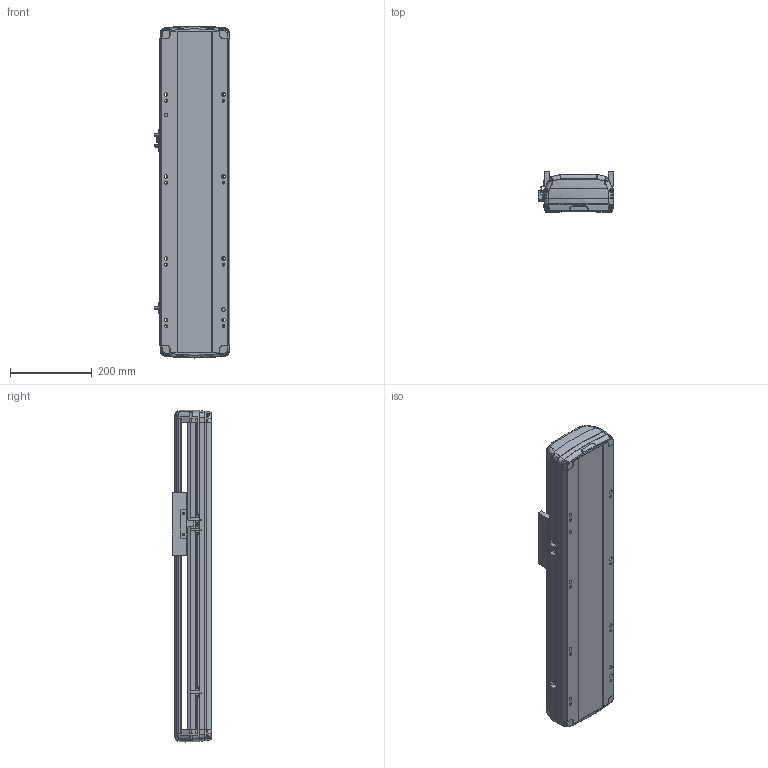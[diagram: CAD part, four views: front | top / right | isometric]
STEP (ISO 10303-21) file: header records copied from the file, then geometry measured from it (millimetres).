
FILE_DESCRIPTION (( 'STEP AP214' ), '1' );
FILE_NAME ('RTH17-XX-400-B-M40-C4.STEP', '2025-10-24T08:32:19', ( '' ), ( '' ), 'SwSTEP 2.0', 'SolidWorks 2018', '' );
FILE_SCHEMA (( 'AUTOMOTIVE_DESIGN' ));
Length unit declared in the file: millimetre
Products named in the file (7): N_RTH17-GY-001P^RTH17-XX-XX-B-M40-C4（方程式）; N_RTH-L-012 感应片(外置)^RTH17-XX-XX-B-M40-C4（方程式）; N_RTH17-E-004丝杆螺母连接座^RTH17-XX-XX-B-M40-C4（方程式）; N_RTH17-M-007上盖^RTH17-XX-XX-B-M40-C4（方程式）; N_RTH17-M-011底座^RTH17-XX-XX-B-M40-C4（方程式）; N_OMRON EE-SX672 換覜ん^RTH17-XX-XX-B-M40-C4ㄗ源最宒ㄘ; RTH17-XX-400-B-M40-C4
Assembly tree (9 placements, depth 2):
  RTH17-XX-400-B-M40-C4
    N_RTH17-M-011底座^RTH17-XX-XX-B-M40-C4（方程式）
    N_RTH17-M-007上盖^RTH17-XX-XX-B-M40-C4（方程式）
    N_OMRON EE-SX672 換覜ん^RTH17-XX-XX-B-M40-C4ㄗ源最宒ㄘ  x3
    N_RTH-L-012 感应片(外置)^RTH17-XX-XX-B-M40-C4（方程式）
    N_RTH17-E-004丝杆螺母连接座^RTH17-XX-XX-B-M40-C4（方程式）
    N_RTH17-GY-001P^RTH17-XX-XX-B-M40-C4（方程式）  x2
Bounding box: 183.5 x 97 x 810.04 mm (x, y, z)
Volume: 6104017.1 mm3; surface area: 885465.2 mm2
Topology: 7 solids, 11 shells, 1704 faces, 4772 edges, 3098 vertices
Faces by surface type: plane 807, cylinder 431, bspline 420, cone 28, torus 18
Entity records: 39510 total; most frequent: CARTESIAN_POINT 16535, ORIENTED_EDGE 5048, DIRECTION 3976, EDGE_CURVE 2528, VERTEX_POINT 1652, VECTOR 1400, LINE 1400, AXIS2_PLACEMENT_3D 1288
